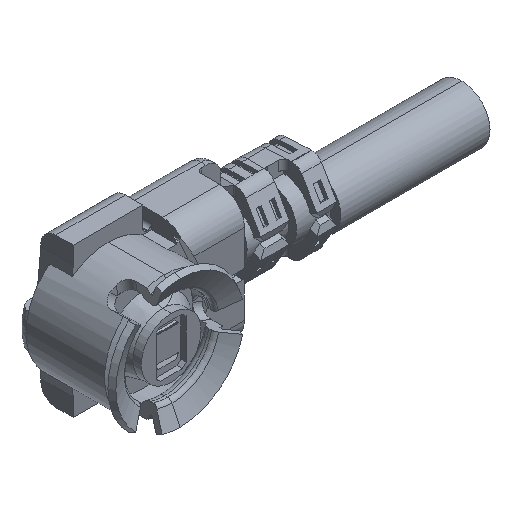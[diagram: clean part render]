
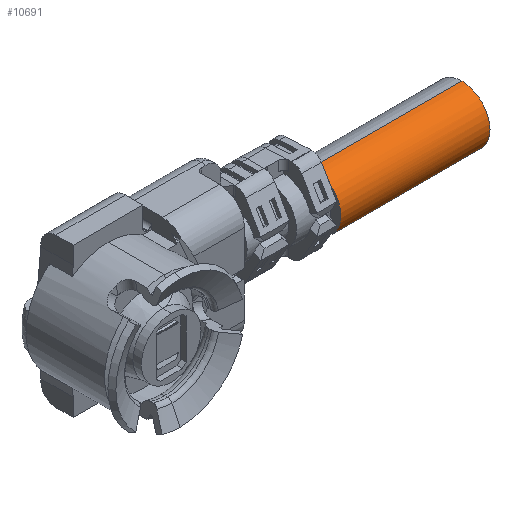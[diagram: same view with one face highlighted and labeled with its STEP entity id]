
A CAD part, isometric view. The second image highlights one B-rep face of the part: STEP entity #10691.
In plain terms, the highlighted cylindrical face has radius 0.565 mm (diameter 1.13 mm), a partial arc.
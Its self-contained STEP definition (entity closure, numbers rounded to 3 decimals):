
#94 = VERTEX_POINT ( 'NONE', #10605 ) ;
#117 = DIRECTION ( 'NONE',  ( -1., 0., 0. ) ) ;
#929 = CARTESIAN_POINT ( 'NONE',  ( 4., -0.465, -0.565 ) ) ;
#1225 = EDGE_CURVE ( 'NONE', #6534, #5589, #11408, .T. ) ;
#1323 = VECTOR ( 'NONE', #2297, 1000. ) ;
#1654 = AXIS2_PLACEMENT_3D ( 'NONE', #5150, #11259, #9195 ) ;
#1844 = ORIENTED_EDGE ( 'NONE', *, *, #9417, .F. ) ;
#2297 = DIRECTION ( 'NONE',  ( -1., 0., 0. ) ) ;
#2571 = LINE ( 'NONE', #12799, #6549 ) ;
#2638 = DIRECTION ( 'NONE',  ( -1., 0., 0. ) ) ;
#2682 = EDGE_LOOP ( 'NONE', ( #8878, #1844, #7075, #6923, #9816, #6920 ) ) ;
#2756 = DIRECTION ( 'NONE',  ( 0., 0., -1. ) ) ;
#2896 = CARTESIAN_POINT ( 'NONE',  ( 7., -0.465, -0.565 ) ) ;
#3098 = DIRECTION ( 'NONE',  ( 1., 0., 0. ) ) ;
#3506 = AXIS2_PLACEMENT_3D ( 'NONE', #3874, #5993, #11978 ) ;
#3623 = VERTEX_POINT ( 'NONE', #2896 ) ;
#3874 = CARTESIAN_POINT ( 'NONE',  ( 4., -0.465, 0. ) ) ;
#3894 = EDGE_CURVE ( 'NONE', #4857, #94, #10480, .T. ) ;
#3969 = CARTESIAN_POINT ( 'NONE',  ( 4., -0.465, 0. ) ) ;
#4843 = CARTESIAN_POINT ( 'NONE',  ( 4., -0.465, 0.565 ) ) ;
#4857 = VERTEX_POINT ( 'NONE', #6952 ) ;
#5150 = CARTESIAN_POINT ( 'NONE',  ( 7., -0.465, 0. ) ) ;
#5189 = AXIS2_PLACEMENT_3D ( 'NONE', #9735, #11865, #2756 ) ;
#5223 = EDGE_CURVE ( 'NONE', #5589, #4857, #5414, .T. ) ;
#5414 = CIRCLE ( 'NONE', #3506, 0.565 ) ;
#5479 = AXIS2_PLACEMENT_3D ( 'NONE', #10178, #117, #6127 ) ;
#5589 = VERTEX_POINT ( 'NONE', #4843 ) ;
#5993 = DIRECTION ( 'NONE',  ( 1., 0., 0. ) ) ;
#6127 = DIRECTION ( 'NONE',  ( 0., 0., 1. ) ) ;
#6191 = FACE_OUTER_BOUND ( 'NONE', #2682, .T. ) ;
#6534 = VERTEX_POINT ( 'NONE', #7259 ) ;
#6549 = VECTOR ( 'NONE', #2638, 1000. ) ;
#6920 = ORIENTED_EDGE ( 'NONE', *, *, #10376, .T. ) ;
#6923 = ORIENTED_EDGE ( 'NONE', *, *, #5223, .T. ) ;
#6952 = CARTESIAN_POINT ( 'NONE',  ( 4., -0.81, 0.448 ) ) ;
#7075 = ORIENTED_EDGE ( 'NONE', *, *, #1225, .T. ) ;
#7259 = CARTESIAN_POINT ( 'NONE',  ( 7., -0.465, 0.565 ) ) ;
#7608 = AXIS2_PLACEMENT_3D ( 'NONE', #3969, #3098, #9140 ) ;
#8035 = CIRCLE ( 'NONE', #7608, 0.565 ) ;
#8878 = ORIENTED_EDGE ( 'NONE', *, *, #11250, .F. ) ;
#9102 = CIRCLE ( 'NONE', #1654, 0.565 ) ;
#9140 = DIRECTION ( 'NONE',  ( 0., 0., -1. ) ) ;
#9195 = DIRECTION ( 'NONE',  ( 0., 0., -1. ) ) ;
#9417 = EDGE_CURVE ( 'NONE', #6534, #3623, #9102, .T. ) ;
#9735 = CARTESIAN_POINT ( 'NONE',  ( 4., -0.465, 0. ) ) ;
#9816 = ORIENTED_EDGE ( 'NONE', *, *, #3894, .T. ) ;
#10178 = CARTESIAN_POINT ( 'NONE',  ( 7., -0.465, 0. ) ) ;
#10376 = EDGE_CURVE ( 'NONE', #94, #11676, #8035, .T. ) ;
#10480 = CIRCLE ( 'NONE', #5189, 0.565 ) ;
#10539 = CARTESIAN_POINT ( 'NONE',  ( 7., -0.465, 0.565 ) ) ;
#10605 = CARTESIAN_POINT ( 'NONE',  ( 4., -0.81, -0.448 ) ) ;
#10691 = ADVANCED_FACE ( 'NONE', ( #6191 ), #11303, .T. ) ;
#11250 = EDGE_CURVE ( 'NONE', #3623, #11676, #2571, .T. ) ;
#11259 = DIRECTION ( 'NONE',  ( 1., 0., 0. ) ) ;
#11303 = CYLINDRICAL_SURFACE ( 'NONE', #5479, 0.565 ) ;
#11408 = LINE ( 'NONE', #10539, #1323 ) ;
#11676 = VERTEX_POINT ( 'NONE', #929 ) ;
#11865 = DIRECTION ( 'NONE',  ( 1., 0., 0. ) ) ;
#11978 = DIRECTION ( 'NONE',  ( 0., 0., -1. ) ) ;
#12799 = CARTESIAN_POINT ( 'NONE',  ( 7., -0.465, -0.565 ) ) ;
